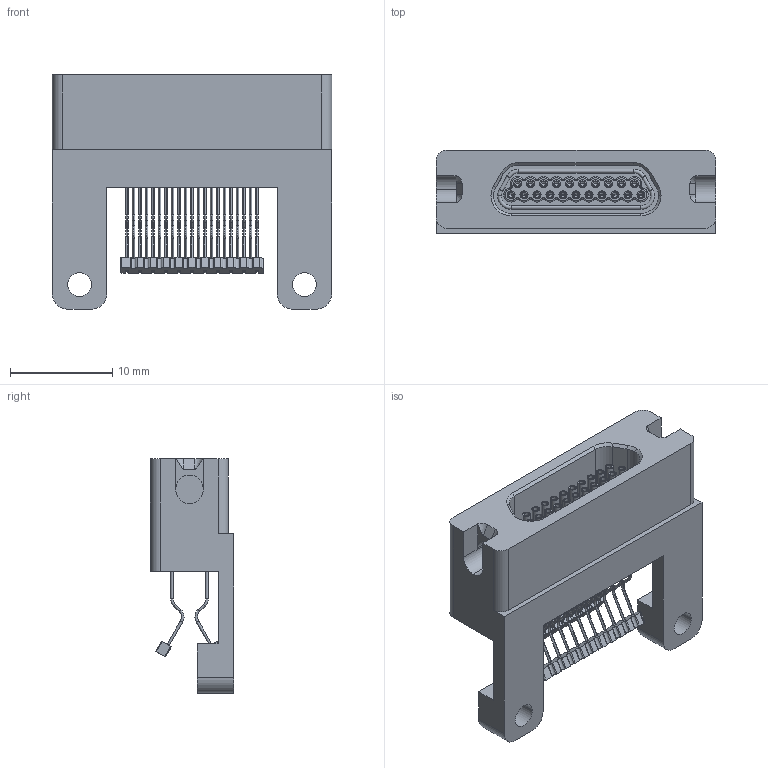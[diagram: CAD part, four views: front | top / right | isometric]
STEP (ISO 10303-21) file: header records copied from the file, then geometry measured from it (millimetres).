
FILE_DESCRIPTION (( 'STEP AP214' ), '1' );
FILE_NAME ('A99850-021 REV A.STEP', '2013-11-14T15:56:02', ( 'T' ), ( 'Microsoft' ), 'SwSTEP 2.0', 'SolidWorks 2012', '' );
FILE_SCHEMA (( 'AUTOMOTIVE_DESIGN' ));
Products named in the file (1): A99850-021 REV 1
Bounding box: 27.3 x 8.14 x 22.91 mm (x, y, z)
Volume: 2251.9 mm3; surface area: 2863.5 mm2
Topology: 1 solids, 8 shells, 1450 faces, 3925 edges, 2441 vertices
Faces by surface type: cylinder 607, plane 562, torus 176, bspline 54, cone 51
Entity records: 48613 total; most frequent: CARTESIAN_POINT 11001, DIRECTION 8309, ORIENTED_EDGE 7754, EDGE_CURVE 3877, AXIS2_PLACEMENT_3D 3149, VERTEX_POINT 2441, VECTOR 2011, LINE 2011
